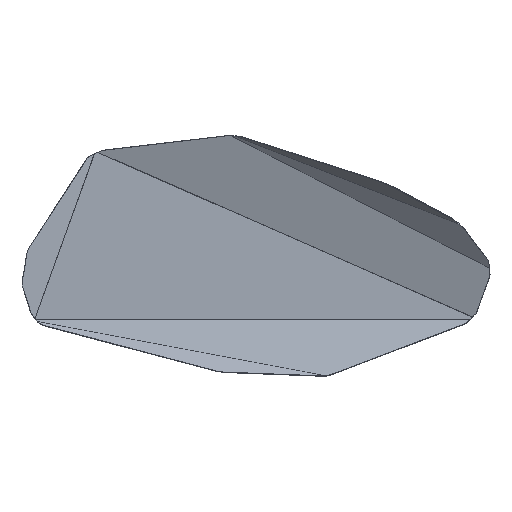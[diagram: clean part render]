
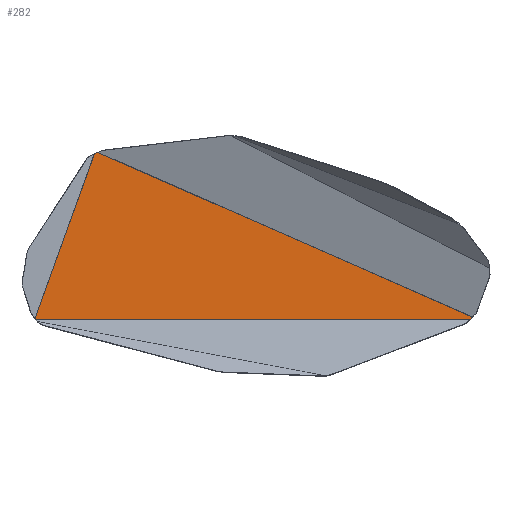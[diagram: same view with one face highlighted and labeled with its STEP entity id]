
A CAD part, top view. The second image highlights one B-rep face of the part: STEP entity #282.
In plain terms, the highlighted planar face has unit normal (0, 0, 1).
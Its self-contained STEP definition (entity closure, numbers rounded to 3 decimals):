
#282=ADVANCED_FACE('',(#378),#1468,.T.);
#378=FACE_OUTER_BOUND('',#474,.T.);
#474=EDGE_LOOP('',(#591));
#591=ORIENTED_EDGE('',*,*,#822,.T.);
#822=EDGE_CURVE('',#1247,#1247,#1052,.T.);
#1052=B_SPLINE_CURVE_WITH_KNOTS('',1,(#1841,#1842,#1843,#1844,#1845,#1846,
#1847),.UNSPECIFIED.,.T.,.F.,(2,1,1,1,1,1,2),(0.,1.,2.,3.,4.,5.,6.),
 .UNSPECIFIED.);
#1247=VERTEX_POINT('',#1840);
#1468=PLANE('',#1608);
#1608=AXIS2_PLACEMENT_3D('',#1839,#1696,$);
#1696=DIRECTION('',(0.,0.,1.));
#1839=CARTESIAN_POINT('',(1400.473,184.433,11.5));
#1840=CARTESIAN_POINT('',(235.731,696.281,11.5));
#1841=CARTESIAN_POINT('',(235.731,696.281,11.5));
#1842=CARTESIAN_POINT('',(224.872,691.526,11.5));
#1843=CARTESIAN_POINT('',(40.431,179.578,11.5));
#1844=CARTESIAN_POINT('',(42.816,176.653,11.5));
#1845=CARTESIAN_POINT('',(1392.964,176.653,11.5));
#1846=CARTESIAN_POINT('',(1400.473,184.433,11.5));
#1847=CARTESIAN_POINT('',(235.731,696.281,11.5));
